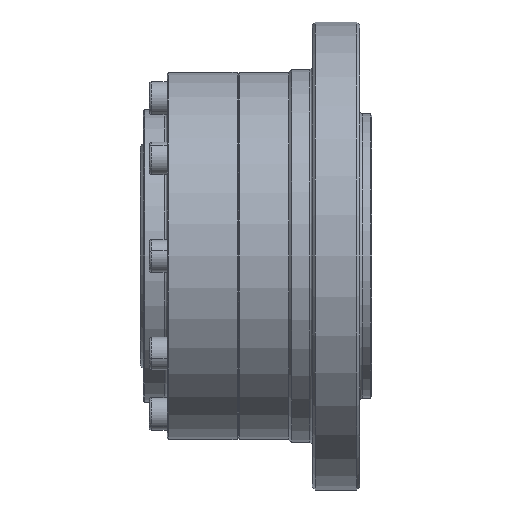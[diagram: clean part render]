
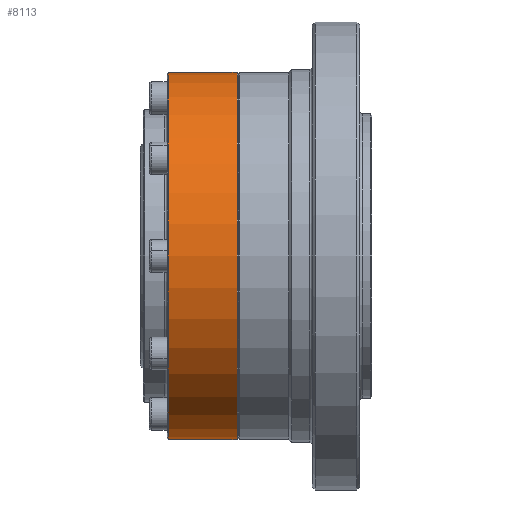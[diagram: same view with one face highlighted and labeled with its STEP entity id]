
A CAD part, front view. The second image highlights one B-rep face of the part: STEP entity #8113.
In plain terms, the highlighted cylindrical face has radius 31 mm (diameter 62 mm), a partial arc.
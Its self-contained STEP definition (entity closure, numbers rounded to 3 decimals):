
#673 = LINE ( 'NONE', #14579, #12746 ) ;
#1032 = CYLINDRICAL_SURFACE ( 'NONE', #16620, 31. ) ;
#4077 = ORIENTED_EDGE ( 'NONE', *, *, #15058, .F. ) ;
#4862 = CIRCLE ( 'NONE', #19231, 31. ) ;
#5997 = CARTESIAN_POINT ( 'NONE',  ( 4.7, 0., 31. ) ) ;
#6105 = CARTESIAN_POINT ( 'NONE',  ( 16.3, 0., 0. ) ) ;
#6143 = ORIENTED_EDGE ( 'NONE', *, *, #16350, .T. ) ;
#6514 = EDGE_CURVE ( 'NONE', #14445, #15364, #9520, .T. ) ;
#7542 = DIRECTION ( 'NONE',  ( -1., 0., 0. ) ) ;
#7710 = DIRECTION ( 'NONE',  ( 0., 0., 1. ) ) ;
#7879 = DIRECTION ( 'NONE',  ( -1., 0., 0. ) ) ;
#8004 = DIRECTION ( 'NONE',  ( -1., 0., 0. ) ) ;
#8113 = ADVANCED_FACE ( 'NONE', ( #14165 ), #1032, .T. ) ;
#8619 = CIRCLE ( 'NONE', #17751, 31. ) ;
#9020 = VECTOR ( 'NONE', #8004, 1000. ) ;
#9138 = DIRECTION ( 'NONE',  ( 0., 0., 1. ) ) ;
#9455 = DIRECTION ( 'NONE',  ( -1., 0., 0. ) ) ;
#9520 = LINE ( 'NONE', #17924, #9020 ) ;
#9566 = EDGE_LOOP ( 'NONE', ( #20266, #16110, #6143, #4077 ) ) ;
#12329 = CARTESIAN_POINT ( 'NONE',  ( 16.3, 0., 31. ) ) ;
#12467 = CARTESIAN_POINT ( 'NONE',  ( -4.025, 0., 0. ) ) ;
#12746 = VECTOR ( 'NONE', #7879, 1000. ) ;
#13279 = EDGE_CURVE ( 'NONE', #14445, #18872, #4862, .T. ) ;
#14165 = FACE_OUTER_BOUND ( 'NONE', #9566, .T. ) ;
#14307 = CARTESIAN_POINT ( 'NONE',  ( 16.3, 0., -31. ) ) ;
#14445 = VERTEX_POINT ( 'NONE', #14307 ) ;
#14579 = CARTESIAN_POINT ( 'NONE',  ( -4.025, 0., 31. ) ) ;
#15058 = EDGE_CURVE ( 'NONE', #15364, #19397, #8619, .T. ) ;
#15364 = VERTEX_POINT ( 'NONE', #18472 ) ;
#16110 = ORIENTED_EDGE ( 'NONE', *, *, #13279, .T. ) ;
#16350 = EDGE_CURVE ( 'NONE', #18872, #19397, #673, .T. ) ;
#16620 = AXIS2_PLACEMENT_3D ( 'NONE', #12467, #7542, #9138 ) ;
#17638 = DIRECTION ( 'NONE',  ( -1., 0., 0. ) ) ;
#17751 = AXIS2_PLACEMENT_3D ( 'NONE', #19350, #9455, #21032 ) ;
#17924 = CARTESIAN_POINT ( 'NONE',  ( -4.025, 0., -31. ) ) ;
#18472 = CARTESIAN_POINT ( 'NONE',  ( 4.7, 0., -31. ) ) ;
#18872 = VERTEX_POINT ( 'NONE', #12329 ) ;
#19231 = AXIS2_PLACEMENT_3D ( 'NONE', #6105, #17638, #7710 ) ;
#19350 = CARTESIAN_POINT ( 'NONE',  ( 4.7, 0., 0. ) ) ;
#19397 = VERTEX_POINT ( 'NONE', #5997 ) ;
#20266 = ORIENTED_EDGE ( 'NONE', *, *, #6514, .F. ) ;
#21032 = DIRECTION ( 'NONE',  ( 0., 0., 1. ) ) ;
